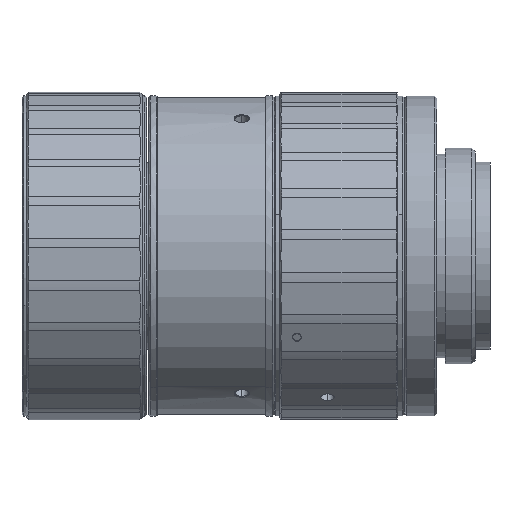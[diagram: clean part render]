
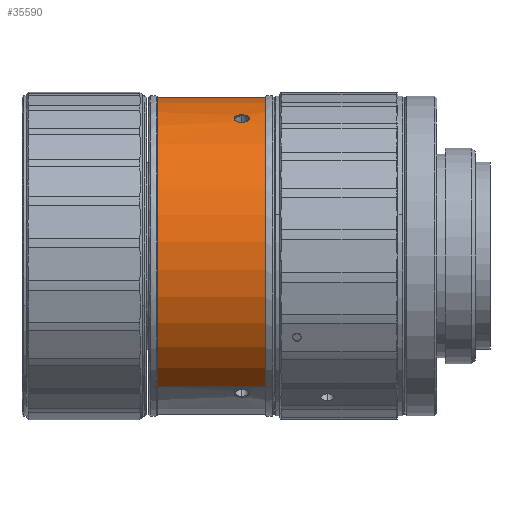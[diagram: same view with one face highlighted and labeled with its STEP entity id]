
A CAD part, front view. The second image highlights one B-rep face of the part: STEP entity #35590.
In plain terms, the highlighted cylindrical face has radius 18.7 mm (diameter 37.4 mm), a partial arc.
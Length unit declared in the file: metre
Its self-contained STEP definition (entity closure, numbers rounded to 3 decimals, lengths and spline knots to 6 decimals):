
#35048=CARTESIAN_POINT('',(0.026164,0.,0.));
#35049=DIRECTION('',(-1.,0.,0.));
#35050=DIRECTION('',(0.,-0.574,-0.819));
#35051=AXIS2_PLACEMENT_3D('',#35048,#35049,#35050);
#35068=CARTESIAN_POINT('',(0.037007,-0.009267,
0.016242));
#35069=CARTESIAN_POINT('',(0.037032,-0.009471,
0.016126));
#35070=CARTESIAN_POINT('',(0.036889,-0.00989,
0.015874));
#35071=CARTESIAN_POINT('',(0.036219,-0.010198,
0.015674));
#35072=CARTESIAN_POINT('',(0.035612,-0.010046,
0.015774));
#35073=CARTESIAN_POINT('',(0.035306,-0.009732,
0.015969));
#35074=CARTESIAN_POINT('',(0.035234,-0.009534,
0.016088));
#35075=CARTESIAN_POINT('',(0.035221,-0.009432,
0.016147));
#35077=CARTESIAN_POINT('',(0.035221,-0.009432,
0.016147));
#35078=CARTESIAN_POINT('',(0.035196,-0.009229,
0.016266));
#35079=CARTESIAN_POINT('',(0.03534,-0.008802,
0.016502));
#35080=CARTESIAN_POINT('',(0.036009,-0.008475,
0.016669));
#35081=CARTESIAN_POINT('',(0.03674,-0.00867,
0.016571));
#35082=CARTESIAN_POINT('',(0.036982,-0.009063,
0.016359));
#35083=CARTESIAN_POINT('',(0.037007,-0.009267,
0.016242));
#35142=CARTESIAN_POINT('',(0.038914,0.,0.));
#35143=DIRECTION('',(1.,0.,0.));
#35144=DIRECTION('',(0.,0.574,0.819));
#35145=AXIS2_PLACEMENT_3D('',#35142,#35143,#35144);
#35267=DIRECTION('',(-1.,0.,0.));
#35268=VECTOR('',#35267,0.01275);
#35269=CARTESIAN_POINT('',(0.038914,0.010726,
0.015318));
#35270=LINE('',#35269,#35268);
#35271=DIRECTION('',(-1.,0.,0.));
#35272=VECTOR('',#35271,0.01275);
#35273=CARTESIAN_POINT('',(0.038914,-0.010726,
-0.015318));
#35274=LINE('',#35273,#35272);
#35351=CARTESIAN_POINT('',(0.037007,-0.009267,
0.016242));
#35352=VERTEX_POINT('',#35351);
#35353=CARTESIAN_POINT('',(0.035221,-0.009432,
0.016147));
#35354=VERTEX_POINT('',#35353);
#35357=CARTESIAN_POINT('',(0.038914,-0.010726,
-0.015318));
#35358=CARTESIAN_POINT('',(0.026164,-0.010726,
-0.015318));
#35359=VERTEX_POINT('',#35357);
#35360=VERTEX_POINT('',#35358);
#35361=CARTESIAN_POINT('',(0.038914,0.010726,
0.015318));
#35362=CARTESIAN_POINT('',(0.026164,0.010726,
0.015318));
#35363=VERTEX_POINT('',#35361);
#35364=VERTEX_POINT('',#35362);
#35570=CARTESIAN_POINT('',(0.038194,0.,0.));
#35571=DIRECTION('',(-1.,0.,0.));
#35572=DIRECTION('',(0.,-0.574,-0.819));
#35573=AXIS2_PLACEMENT_3D('',#35570,#35571,#35572);
#35574=CYLINDRICAL_SURFACE('',#35573,0.0187);
#35576=ORIENTED_EDGE('',*,*,#35575,.T.);
#35578=ORIENTED_EDGE('',*,*,#35577,.T.);
#35579=ORIENTED_EDGE('',*,*,#35556,.T.);
#35581=ORIENTED_EDGE('',*,*,#35580,.F.);
#35582=EDGE_LOOP('',(#35576,#35578,#35579,#35581));
#35583=FACE_OUTER_BOUND('',#35582,.F.);
#35585=ORIENTED_EDGE('',*,*,#35584,.F.);
#35587=ORIENTED_EDGE('',*,*,#35586,.F.);
#35588=EDGE_LOOP('',(#35585,#35587));
#35589=FACE_BOUND('',#35588,.F.);
#35052=CIRCLE('',#35051,0.0187);
#35076=B_SPLINE_CURVE_WITH_KNOTS('',3,(#35068,#35069,#35070,#35071,#35072,
#35073,#35074,#35075),.UNSPECIFIED.,.F.,.F.,(4,1,1,1,1,4),(0.,0.25,0.5,
0.75,0.875,1.),.UNSPECIFIED.);
#35084=B_SPLINE_CURVE_WITH_KNOTS('',3,(#35077,#35078,#35079,#35080,#35081,
#35082,#35083),.UNSPECIFIED.,.F.,.F.,(4,1,1,1,4),(0.,0.25,0.5,0.75,
1.),.UNSPECIFIED.);
#35146=CIRCLE('',#35145,0.0187);
#35556=EDGE_CURVE('',#35360,#35364,#35052,.T.);
#35575=EDGE_CURVE('',#35363,#35359,#35146,.T.);
#35577=EDGE_CURVE('',#35359,#35360,#35274,.T.);
#35580=EDGE_CURVE('',#35363,#35364,#35270,.T.);
#35584=EDGE_CURVE('',#35352,#35354,#35076,.T.);
#35586=EDGE_CURVE('',#35354,#35352,#35084,.T.);
#35590=ADVANCED_FACE('',(#35583,#35589),#35574,.T.);
